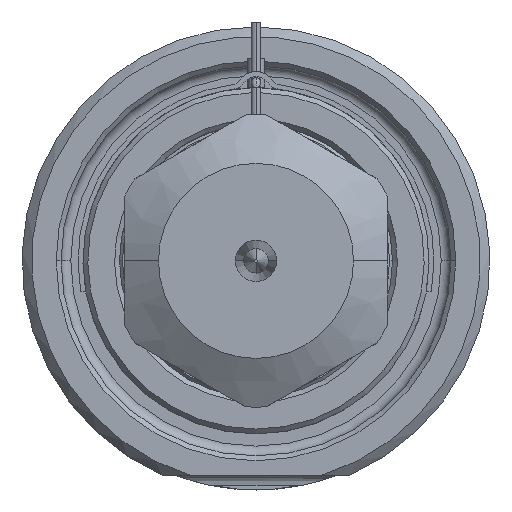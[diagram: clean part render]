
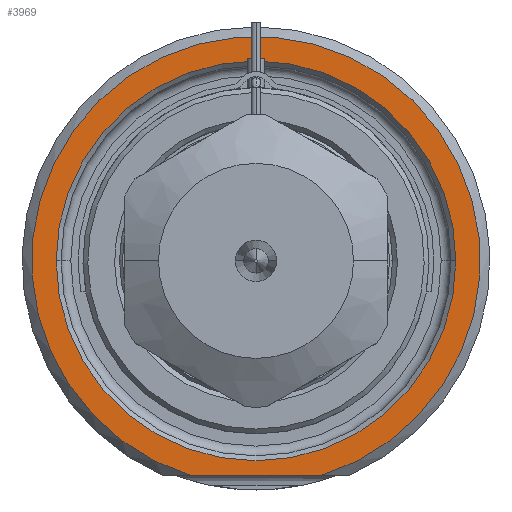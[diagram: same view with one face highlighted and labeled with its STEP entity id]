
A CAD part, front view. The second image highlights one B-rep face of the part: STEP entity #3969.
In plain terms, the highlighted planar face has unit normal (0, -1, 0).
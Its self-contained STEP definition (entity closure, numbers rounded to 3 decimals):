
#1=DIRECTION('',(1.,0.,0.));
#2=VECTOR('',#1,13.416);
#3=CARTESIAN_POINT('',(-6.708,0.,-22.));
#4=LINE('',#3,#2);
#5=CARTESIAN_POINT('',(0.,0.,0.));
#6=DIRECTION('',(0.,1.,0.));
#7=DIRECTION('',(-1.,0.,0.));
#8=AXIS2_PLACEMENT_3D('',#5,#6,#7);
#10=CARTESIAN_POINT('',(0.,0.,0.));
#11=DIRECTION('',(0.,1.,0.));
#12=DIRECTION('',(1.,0.,0.));
#13=AXIS2_PLACEMENT_3D('',#10,#11,#12);
#121=CARTESIAN_POINT('',(0.,0.,0.));
#122=DIRECTION('',(0.,-1.,0.));
#123=DIRECTION('',(0.292,0.,-0.957));
#124=AXIS2_PLACEMENT_3D('',#121,#122,#123);
#3337=CARTESIAN_POINT('',(-20.5,0.,0.));
#3338=CARTESIAN_POINT('',(20.5,0.,0.));
#3339=VERTEX_POINT('',#3337);
#3340=VERTEX_POINT('',#3338);
#3377=CARTESIAN_POINT('',(-6.708,0.,-22.));
#3378=CARTESIAN_POINT('',(6.708,0.,-22.));
#3379=VERTEX_POINT('',#3377);
#3380=VERTEX_POINT('',#3378);
#3952=CARTESIAN_POINT('',(0.,0.,0.));
#3953=DIRECTION('',(0.,-1.,0.));
#3954=DIRECTION('',(1.,0.,0.));
#3955=AXIS2_PLACEMENT_3D('',#3952,#3953,#3954);
#3956=PLANE('',#3955);
#3958=ORIENTED_EDGE('',*,*,#3957,.F.);
#3960=ORIENTED_EDGE('',*,*,#3959,.F.);
#3961=EDGE_LOOP('',(#3958,#3960));
#3962=FACE_OUTER_BOUND('',#3961,.F.);
#3964=ORIENTED_EDGE('',*,*,#3963,.F.);
#3966=ORIENTED_EDGE('',*,*,#3965,.F.);
#3967=EDGE_LOOP('',(#3964,#3966));
#3968=FACE_BOUND('',#3967,.F.);
#3969=ADVANCED_FACE('',(#3962,#3968),#3956,.T.);
#9=CIRCLE('',#8,20.5);
#14=CIRCLE('',#13,20.5);
#125=CIRCLE('',#124,23.);
#3957=EDGE_CURVE('',#3379,#3380,#4,.T.);
#3959=EDGE_CURVE('',#3380,#3379,#125,.T.);
#3963=EDGE_CURVE('',#3339,#3340,#9,.T.);
#3965=EDGE_CURVE('',#3340,#3339,#14,.T.);
